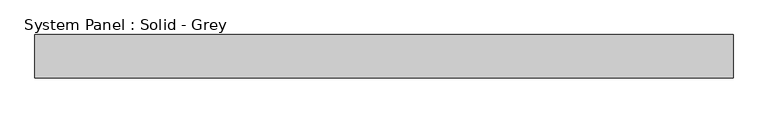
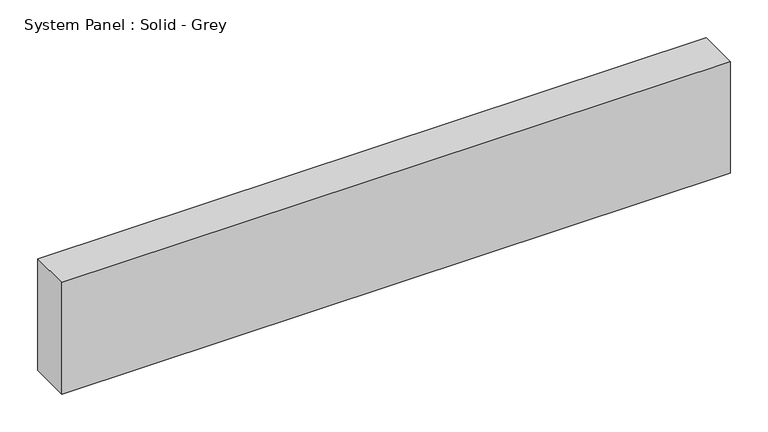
"""IFC4 building model written with IfcOpenShell, lengths in millimetres: plate geometry, System Panel : Solid - Grey."""

from ifc_helpers import new_model, si_unit, origin, origin_with_axes, place, context, project, spatial, polyline, outline, extrude, source, transform, mapped, element, save


def system_panel_solid_grey_e7991892(model_context):
    return source(origin(), model_context, "Body", "SweptSolid", [
        extrude(outline(polyline([(510.7214285, -19.05), (-510.7214285, -19.05), (-510.7214285, 44.45), (510.7214285, 44.45), (510.7214285, -19.05)])), origin_with_axes(), (0.0, 0.0, 1.0), 180.5027241),
    ])


if __name__ == "__main__":
    model = new_model("IFC4")
    model_context = context("Model", 3, world=origin())
    ifc_project = project(units=[si_unit("LENGTHUNIT", "METRE", prefix="MILLI")], contexts=[model_context])
    site = spatial("IfcSite", under=ifc_project)
    building = spatial("IfcBuilding", under=site)
    placement = place(None, origin())
    system_panel_solid_grey_shape = system_panel_solid_grey_e7991892(model_context)
    element("IfcPlate", 1, ObjectType="System Panel : Solid - Grey", at=placement, inside=building, context=model_context, shape_type="MappedRepresentation", body=[
        mapped(system_panel_solid_grey_shape, transform((0.0, 0.0, 0.0), x_axis=(1.0, 0.0, 0.0), y_axis=(0.0, 1.0, 0.0), z_axis=(0.0, 0.0, 1.0))),
    ])
    save(model, "model.ifc")
